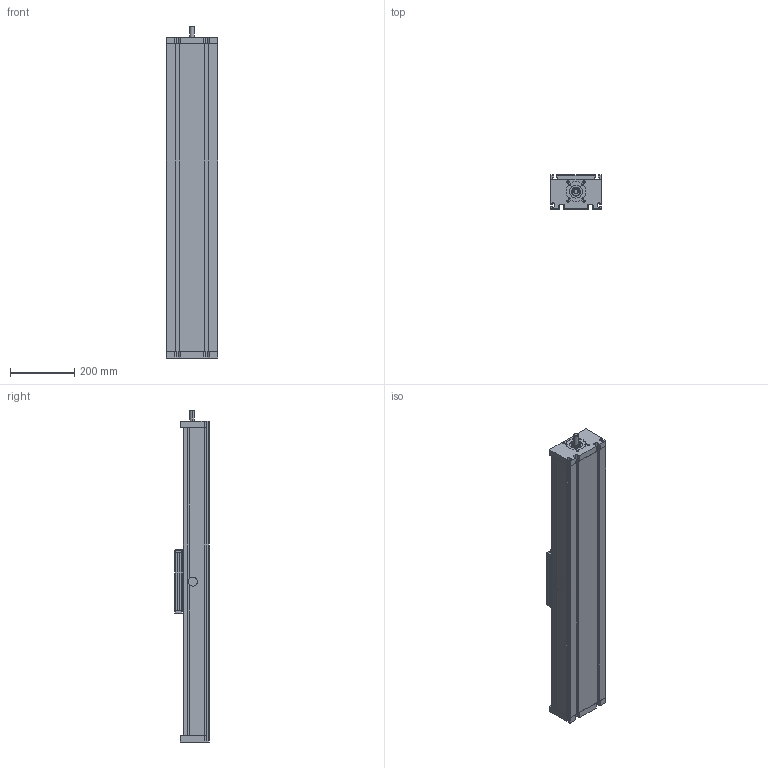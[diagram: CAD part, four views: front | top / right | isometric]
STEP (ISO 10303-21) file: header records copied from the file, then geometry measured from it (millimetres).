
FILE_DESCRIPTION (( 'STEP AP214' ), '1' );
FILE_NAME ('DLT(K)160.STEP', '2022-06-29T10:08:30', ( '' ), ( '' ), 'SwSTEP 2.0', 'SolidWorks 2020', '' );
FILE_SCHEMA (( 'AUTOMOTIVE_DESIGN' ));
Length unit declared in the file: millimetre
Products named in the file (5): DLT(K)160; profile^DLT(K)160_standard; carriage^DLT(K)160_carriage version 0; bearing block^DLT(K)160_cap; bearing block^DLT(K)160_shaft
Assembly tree (4 placements, depth 2):
  DLT(K)160
    profile^DLT(K)160_standard
    carriage^DLT(K)160_carriage version 0
    bearing block^DLT(K)160_shaft
    bearing block^DLT(K)160_cap
Bounding box: 160.2 x 106 x 1035 mm (x, y, z)
Volume: 7922594 mm3; surface area: 1816953.8 mm2
Topology: 11 solids, 12 shells, 464 faces, 1292 edges, 847 vertices
Faces by surface type: plane 302, cylinder 147, sphere 8, cone 7
Entity records: 16254 total; most frequent: CARTESIAN_POINT 2700, ORIENTED_EDGE 2568, DIRECTION 2523, EDGE_CURVE 1284, VECTOR 959, LINE 959, VERTEX_POINT 847, AXIS2_PLACEMENT_3D 782
